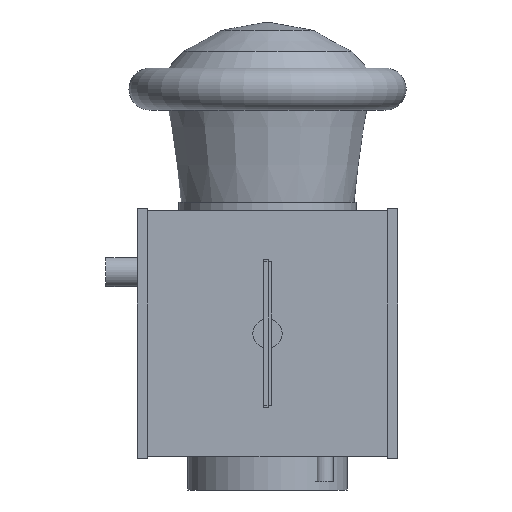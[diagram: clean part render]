
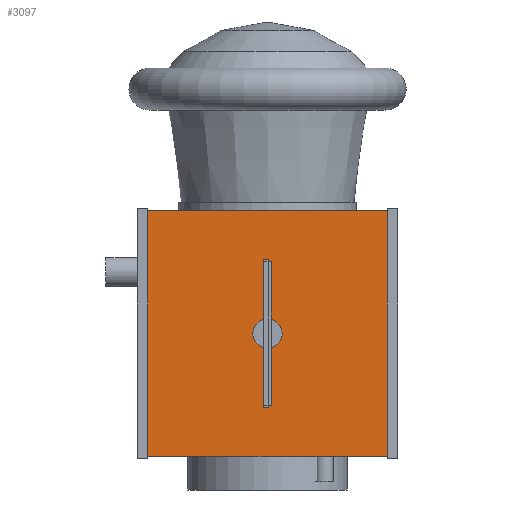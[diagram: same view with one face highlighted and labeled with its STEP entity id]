
A CAD part, left-side view. The second image highlights one B-rep face of the part: STEP entity #3097.
In plain terms, the highlighted planar face has unit normal (-1, 0, 0).
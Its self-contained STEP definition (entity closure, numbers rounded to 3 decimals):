
#3097 = ADVANCED_FACE('',(#3098),#3112,.F.);
#3098 = FACE_BOUND('',#3099,.F.);
#3099 = EDGE_LOOP('',(#3100,#3135,#3163,#3191));
#3100 = ORIENTED_EDGE('',*,*,#3101,.F.);
#3101 = EDGE_CURVE('',#3102,#3104,#3106,.T.);
#3102 = VERTEX_POINT('',#3103);
#3103 = CARTESIAN_POINT('',(-0.296,-0.296,-0.586));
#3104 = VERTEX_POINT('',#3105);
#3105 = CARTESIAN_POINT('',(-0.296,-0.296,0.));
#3106 = SURFACE_CURVE('',#3107,(#3111,#3123),.PCURVE_S1.);
#3107 = LINE('',#3108,#3109);
#3108 = CARTESIAN_POINT('',(-0.296,-0.296,-0.586));
#3109 = VECTOR('',#3110,1.);
#3110 = DIRECTION('',(0.,0.,1.));
#3111 = PCURVE('',#3112,#3117);
#3112 = PLANE('',#3113);
#3113 = AXIS2_PLACEMENT_3D('',#3114,#3115,#3116);
#3114 = CARTESIAN_POINT('',(-0.296,-0.296,-0.586));
#3115 = DIRECTION('',(1.,0.,0.));
#3116 = DIRECTION('',(0.,0.,1.));
#3117 = DEFINITIONAL_REPRESENTATION('',(#3118),#3122);
#3118 = LINE('',#3119,#3120);
#3119 = CARTESIAN_POINT('',(0.,0.));
#3120 = VECTOR('',#3121,1.);
#3121 = DIRECTION('',(1.,0.));
#3122 = ( GEOMETRIC_REPRESENTATION_CONTEXT(2) 
PARAMETRIC_REPRESENTATION_CONTEXT() REPRESENTATION_CONTEXT('2D SPACE',''
  ) );
#3123 = PCURVE('',#3124,#3129);
#3124 = PLANE('',#3125);
#3125 = AXIS2_PLACEMENT_3D('',#3126,#3127,#3128);
#3126 = CARTESIAN_POINT('',(-0.296,-0.296,-0.586));
#3127 = DIRECTION('',(0.,1.,0.));
#3128 = DIRECTION('',(0.,0.,1.));
#3129 = DEFINITIONAL_REPRESENTATION('',(#3130),#3134);
#3130 = LINE('',#3131,#3132);
#3131 = CARTESIAN_POINT('',(0.,0.));
#3132 = VECTOR('',#3133,1.);
#3133 = DIRECTION('',(1.,0.));
#3134 = ( GEOMETRIC_REPRESENTATION_CONTEXT(2) 
PARAMETRIC_REPRESENTATION_CONTEXT() REPRESENTATION_CONTEXT('2D SPACE',''
  ) );
#3135 = ORIENTED_EDGE('',*,*,#3136,.T.);
#3136 = EDGE_CURVE('',#3102,#3137,#3139,.T.);
#3137 = VERTEX_POINT('',#3138);
#3138 = CARTESIAN_POINT('',(-0.296,0.296,-0.586));
#3139 = SURFACE_CURVE('',#3140,(#3144,#3151),.PCURVE_S1.);
#3140 = LINE('',#3141,#3142);
#3141 = CARTESIAN_POINT('',(-0.296,-0.296,-0.586));
#3142 = VECTOR('',#3143,1.);
#3143 = DIRECTION('',(0.,1.,0.));
#3144 = PCURVE('',#3112,#3145);
#3145 = DEFINITIONAL_REPRESENTATION('',(#3146),#3150);
#3146 = LINE('',#3147,#3148);
#3147 = CARTESIAN_POINT('',(0.,0.));
#3148 = VECTOR('',#3149,1.);
#3149 = DIRECTION('',(0.,-1.));
#3150 = ( GEOMETRIC_REPRESENTATION_CONTEXT(2) 
PARAMETRIC_REPRESENTATION_CONTEXT() REPRESENTATION_CONTEXT('2D SPACE',''
  ) );
#3151 = PCURVE('',#3152,#3157);
#3152 = PLANE('',#3153);
#3153 = AXIS2_PLACEMENT_3D('',#3154,#3155,#3156);
#3154 = CARTESIAN_POINT('',(-0.296,-0.296,-0.586));
#3155 = DIRECTION('',(0.,0.,1.));
#3156 = DIRECTION('',(1.,0.,0.));
#3157 = DEFINITIONAL_REPRESENTATION('',(#3158),#3162);
#3158 = LINE('',#3159,#3160);
#3159 = CARTESIAN_POINT('',(0.,0.));
#3160 = VECTOR('',#3161,1.);
#3161 = DIRECTION('',(0.,1.));
#3162 = ( GEOMETRIC_REPRESENTATION_CONTEXT(2) 
PARAMETRIC_REPRESENTATION_CONTEXT() REPRESENTATION_CONTEXT('2D SPACE',''
  ) );
#3163 = ORIENTED_EDGE('',*,*,#3164,.T.);
#3164 = EDGE_CURVE('',#3137,#3165,#3167,.T.);
#3165 = VERTEX_POINT('',#3166);
#3166 = CARTESIAN_POINT('',(-0.296,0.296,0.));
#3167 = SURFACE_CURVE('',#3168,(#3172,#3179),.PCURVE_S1.);
#3168 = LINE('',#3169,#3170);
#3169 = CARTESIAN_POINT('',(-0.296,0.296,-0.586));
#3170 = VECTOR('',#3171,1.);
#3171 = DIRECTION('',(0.,0.,1.));
#3172 = PCURVE('',#3112,#3173);
#3173 = DEFINITIONAL_REPRESENTATION('',(#3174),#3178);
#3174 = LINE('',#3175,#3176);
#3175 = CARTESIAN_POINT('',(0.,-0.591));
#3176 = VECTOR('',#3177,1.);
#3177 = DIRECTION('',(1.,0.));
#3178 = ( GEOMETRIC_REPRESENTATION_CONTEXT(2) 
PARAMETRIC_REPRESENTATION_CONTEXT() REPRESENTATION_CONTEXT('2D SPACE',''
  ) );
#3179 = PCURVE('',#3180,#3185);
#3180 = PLANE('',#3181);
#3181 = AXIS2_PLACEMENT_3D('',#3182,#3183,#3184);
#3182 = CARTESIAN_POINT('',(-0.296,0.296,-0.586));
#3183 = DIRECTION('',(0.,1.,0.));
#3184 = DIRECTION('',(0.,0.,1.));
#3185 = DEFINITIONAL_REPRESENTATION('',(#3186),#3190);
#3186 = LINE('',#3187,#3188);
#3187 = CARTESIAN_POINT('',(0.,0.));
#3188 = VECTOR('',#3189,1.);
#3189 = DIRECTION('',(1.,0.));
#3190 = ( GEOMETRIC_REPRESENTATION_CONTEXT(2) 
PARAMETRIC_REPRESENTATION_CONTEXT() REPRESENTATION_CONTEXT('2D SPACE',''
  ) );
#3191 = ORIENTED_EDGE('',*,*,#3192,.F.);
#3192 = EDGE_CURVE('',#3104,#3165,#3193,.T.);
#3193 = SURFACE_CURVE('',#3194,(#3198,#3205),.PCURVE_S1.);
#3194 = LINE('',#3195,#3196);
#3195 = CARTESIAN_POINT('',(-0.296,-0.296,0.));
#3196 = VECTOR('',#3197,1.);
#3197 = DIRECTION('',(0.,1.,0.));
#3198 = PCURVE('',#3112,#3199);
#3199 = DEFINITIONAL_REPRESENTATION('',(#3200),#3204);
#3200 = LINE('',#3201,#3202);
#3201 = CARTESIAN_POINT('',(0.586,0.));
#3202 = VECTOR('',#3203,1.);
#3203 = DIRECTION('',(0.,-1.));
#3204 = ( GEOMETRIC_REPRESENTATION_CONTEXT(2) 
PARAMETRIC_REPRESENTATION_CONTEXT() REPRESENTATION_CONTEXT('2D SPACE',''
  ) );
#3205 = PCURVE('',#3206,#3211);
#3206 = PLANE('',#3207);
#3207 = AXIS2_PLACEMENT_3D('',#3208,#3209,#3210);
#3208 = CARTESIAN_POINT('',(-0.296,-0.296,0.));
#3209 = DIRECTION('',(0.,0.,1.));
#3210 = DIRECTION('',(1.,0.,0.));
#3211 = DEFINITIONAL_REPRESENTATION('',(#3212),#3216);
#3212 = LINE('',#3213,#3214);
#3213 = CARTESIAN_POINT('',(0.,0.));
#3214 = VECTOR('',#3215,1.);
#3215 = DIRECTION('',(0.,1.));
#3216 = ( GEOMETRIC_REPRESENTATION_CONTEXT(2) 
PARAMETRIC_REPRESENTATION_CONTEXT() REPRESENTATION_CONTEXT('2D SPACE',''
  ) );
